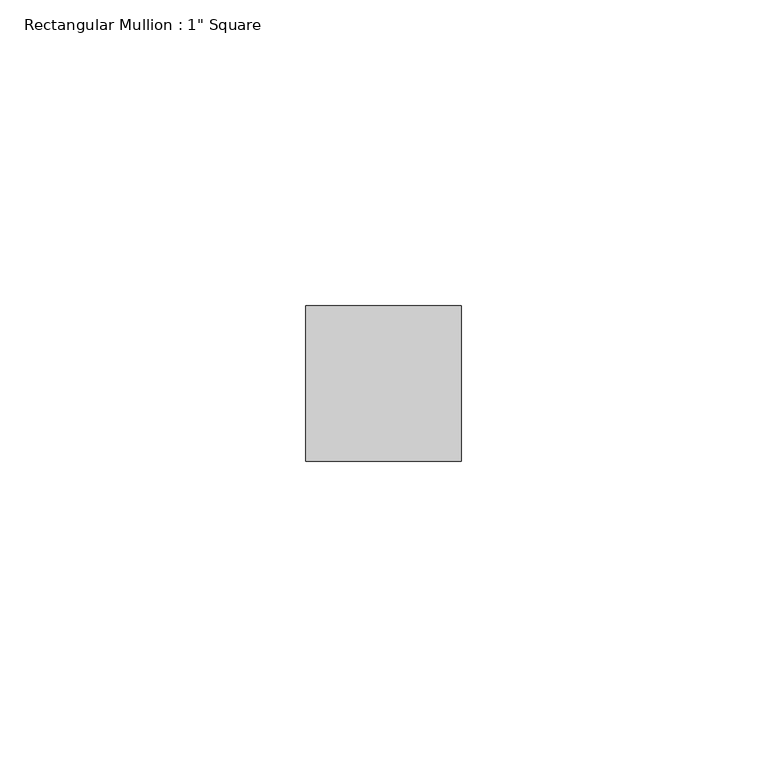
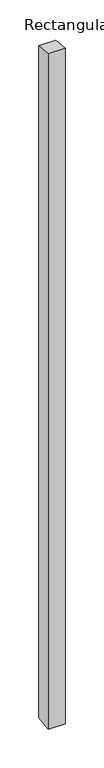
"""IFC4 building model written with IfcOpenShell, lengths in millimetres: member geometry."""

from ifc_helpers import new_model, si_unit, frame, origin, place, context, project, spatial, polyline, outline, extrude, source, transform, mapped, element, save


def member_3f701010(model_context):
    return source(origin(), model_context, "Body", "SweptSolid", [
        extrude(outline(polyline([(-12.7, 1.4430982), (12.7, -1.4430982), (12.7, -1065.3994219), (-12.7, -1068.2005781), (-12.7, 1.4430982)])), frame((-12.7, 0.0, 0.0), z_axis=(1.0, 0.0, 0.0), x_axis=(0.0, 1.0, 0.0)), (0.0, 0.0, 1.0), 25.4),
    ])


if __name__ == "__main__":
    model = new_model("IFC4")
    model_context = context("Model", 3, world=origin())
    ifc_project = project(units=[si_unit("LENGTHUNIT", "METRE", prefix="MILLI")], contexts=[model_context])
    site = spatial("IfcSite", under=ifc_project)
    building = spatial("IfcBuilding", under=site)
    placement = place(None, origin())
    member_shape = member_3f701010(model_context)
    element("IfcMember", 1, ObjectType="Rectangular Mullion : 1\" Square", at=placement, inside=building, context=model_context, shape_type="MappedRepresentation", body=[
        mapped(member_shape, transform((0.0, 0.0, 0.0), x_axis=(1.0, 0.0, 0.0), y_axis=(0.0, 1.0, 0.0), z_axis=(0.0, 0.0, 1.0))),
    ])
    save(model, "model.ifc")
